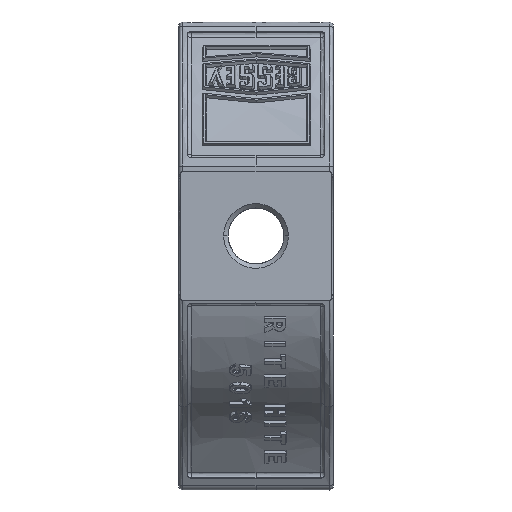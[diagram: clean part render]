
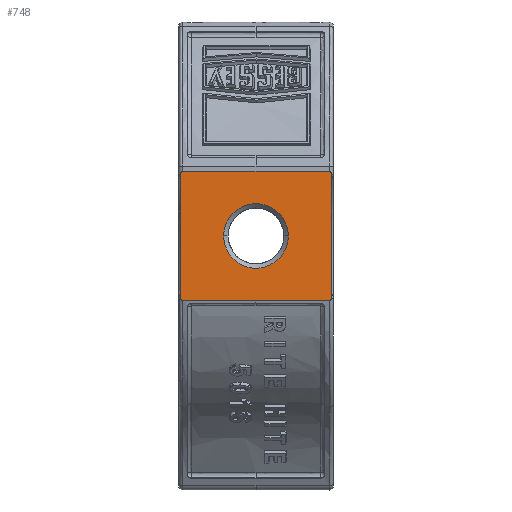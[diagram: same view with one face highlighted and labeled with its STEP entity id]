
A CAD part, front view. The second image highlights one B-rep face of the part: STEP entity #748.
In plain terms, the highlighted free-form (B-spline) face has degree [1, 1] with [2, 2] control points.
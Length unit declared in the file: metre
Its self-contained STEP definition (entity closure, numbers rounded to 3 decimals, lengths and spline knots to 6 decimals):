
#748 = ADVANCED_FACE( '', ( #2136, #2137 ), #2138, .F. );
#2136 = FACE_BOUND( '', #4456, .T. );
#2137 = FACE_OUTER_BOUND( '', #4457, .T. );
#2138 = B_SPLINE_SURFACE_WITH_KNOTS( '', 1, 1, ( ( #4458, #4459 ), ( #4460, #4461 ) ), .UNSPECIFIED., .F., .F., .F., ( 2, 2 ), ( 2, 2 ), ( 0., 1. ), ( 0., 1. ), .UNSPECIFIED. );
#4456 = EDGE_LOOP( '', ( #14803, #14804 ) );
#4457 = EDGE_LOOP( '', ( #14805, #14806, #14807, #14808, #14809, #14810, #14811, #14812 ) );
#4458 = CARTESIAN_POINT( '', ( 0.0175, 0., 0.015 ) );
#4459 = CARTESIAN_POINT( '', ( -0.0175, 0., 0.015 ) );
#4460 = CARTESIAN_POINT( '', ( 0.0175, 0., -0.015 ) );
#4461 = CARTESIAN_POINT( '', ( -0.0175, 0., -0.015 ) );
#14803 = ORIENTED_EDGE( '', *, *, #19193, .F. );
#14804 = ORIENTED_EDGE( '', *, *, #19194, .F. );
#14805 = ORIENTED_EDGE( '', *, *, #19195, .F. );
#14806 = ORIENTED_EDGE( '', *, *, #19196, .F. );
#14807 = ORIENTED_EDGE( '', *, *, #19197, .F. );
#14808 = ORIENTED_EDGE( '', *, *, #19198, .F. );
#14809 = ORIENTED_EDGE( '', *, *, #19199, .F. );
#14810 = ORIENTED_EDGE( '', *, *, #19200, .F. );
#14811 = ORIENTED_EDGE( '', *, *, #19201, .F. );
#14812 = ORIENTED_EDGE( '', *, *, #19202, .F. );
#19193 = EDGE_CURVE( '', #23609, #23610, #23611, .T. );
#19194 = EDGE_CURVE( '', #23610, #23609, #23612, .T. );
#19195 = EDGE_CURVE( '', #23613, #23614, #23615, .F. );
#19196 = EDGE_CURVE( '', #23616, #23613, #23617, .F. );
#19197 = EDGE_CURVE( '', #23618, #23616, #23619, .F. );
#19198 = EDGE_CURVE( '', #23620, #23618, #23621, .F. );
#19199 = EDGE_CURVE( '', #23622, #23620, #23623, .T. );
#19200 = EDGE_CURVE( '', #23624, #23622, #23625, .T. );
#19201 = EDGE_CURVE( '', #23626, #23624, #23627, .T. );
#19202 = EDGE_CURVE( '', #23614, #23626, #23628, .F. );
#23609 = VERTEX_POINT( '', #32088 );
#23610 = VERTEX_POINT( '', #32089 );
#23611 = ( BOUNDED_CURVE(  )B_SPLINE_CURVE( 2, ( #32092, #32093, #32094, #32095, #32096 ), .UNSPECIFIED., .F., .F. )B_SPLINE_CURVE_WITH_KNOTS( ( 3, 2, 3 ), ( 0., 0.5, 1. ), .UNSPECIFIED. )CURVE(  )GEOMETRIC_REPRESENTATION_ITEM(  )RATIONAL_B_SPLINE_CURVE( ( 1., 0.707, 1., 0.707, 1. ) )REPRESENTATION_ITEM( '' ) );
#23612 = ( BOUNDED_CURVE(  )B_SPLINE_CURVE( 2, ( #32104, #32105, #32106, #32107, #32108 ), .UNSPECIFIED., .F., .F. )B_SPLINE_CURVE_WITH_KNOTS( ( 3, 2, 3 ), ( 0., 0.5, 1. ), .UNSPECIFIED. )CURVE(  )GEOMETRIC_REPRESENTATION_ITEM(  )RATIONAL_B_SPLINE_CURVE( ( 1., 0.707, 1., 0.707, 1. ) )REPRESENTATION_ITEM( '' ) );
#23613 = VERTEX_POINT( '', #32114 );
#23614 = VERTEX_POINT( '', #32115 );
#23615 = ( BOUNDED_CURVE(  )B_SPLINE_CURVE( 2, ( #32118, #32119, #32120, #32121 ), .UNSPECIFIED., .F., .F. )B_SPLINE_CURVE_WITH_KNOTS( ( 3, 1, 3 ), ( 0., 0.5, 1. ), .UNSPECIFIED. )CURVE(  )GEOMETRIC_REPRESENTATION_ITEM(  )RATIONAL_B_SPLINE_CURVE( ( 1., 0.854, 0.854, 1. ) )REPRESENTATION_ITEM( '' ) );
#23616 = VERTEX_POINT( '', #32127 );
#23617 = B_SPLINE_CURVE_WITH_KNOTS( '', 1, ( #32128, #32129 ), .UNSPECIFIED., .F., .F., ( 2, 2 ), ( 0.016667, 0.983333 ), .UNSPECIFIED. );
#23618 = VERTEX_POINT( '', #32130 );
#23619 = ( BOUNDED_CURVE(  )B_SPLINE_CURVE( 2, ( #32133, #32134, #32135, #32136 ), .UNSPECIFIED., .F., .F. )B_SPLINE_CURVE_WITH_KNOTS( ( 3, 1, 3 ), ( 0., 0.5, 1. ), .UNSPECIFIED. )CURVE(  )GEOMETRIC_REPRESENTATION_ITEM(  )RATIONAL_B_SPLINE_CURVE( ( 1., 0.854, 0.854, 1. ) )REPRESENTATION_ITEM( '' ) );
#23620 = VERTEX_POINT( '', #32142 );
#23621 = B_SPLINE_CURVE_WITH_KNOTS( '', 1, ( #32143, #32144 ), .UNSPECIFIED., .F., .F., ( 2, 2 ), ( 0.014286, 0.985714 ), .UNSPECIFIED. );
#23622 = VERTEX_POINT( '', #32145 );
#23623 = ( BOUNDED_CURVE(  )B_SPLINE_CURVE( 2, ( #32148, #32149, #32150 ), .UNSPECIFIED., .F., .F. )B_SPLINE_CURVE_WITH_KNOTS( ( 3, 3 ), ( 0., 1. ), .UNSPECIFIED. )CURVE(  )GEOMETRIC_REPRESENTATION_ITEM(  )RATIONAL_B_SPLINE_CURVE( ( 1., 0.707, 1. ) )REPRESENTATION_ITEM( '' ) );
#23624 = VERTEX_POINT( '', #32156 );
#23625 = B_SPLINE_CURVE_WITH_KNOTS( '', 1, ( #32157, #32158 ), .UNSPECIFIED., .F., .F., ( 2, 2 ), ( 0.016667, 0.983333 ), .UNSPECIFIED. );
#23626 = VERTEX_POINT( '', #32159 );
#23627 = ( BOUNDED_CURVE(  )B_SPLINE_CURVE( 2, ( #32162, #32163, #32164 ), .UNSPECIFIED., .F., .F. )B_SPLINE_CURVE_WITH_KNOTS( ( 3, 3 ), ( 0., 1. ), .UNSPECIFIED. )CURVE(  )GEOMETRIC_REPRESENTATION_ITEM(  )RATIONAL_B_SPLINE_CURVE( ( 1., 0.707, 1. ) )REPRESENTATION_ITEM( '' ) );
#23628 = B_SPLINE_CURVE_WITH_KNOTS( '', 1, ( #32170, #32171 ), .UNSPECIFIED., .F., .F., ( 2, 2 ), ( 0.014286, 0.985714 ), .UNSPECIFIED. );
#32088 = CARTESIAN_POINT( '', ( -0.0075, 0., 0. ) );
#32089 = CARTESIAN_POINT( '', ( 0.0075, 0., 0. ) );
#32092 = CARTESIAN_POINT( '', ( -0.0075, 0., 0. ) );
#32093 = CARTESIAN_POINT( '', ( -0.0075, 0., -0.0075 ) );
#32094 = CARTESIAN_POINT( '', ( 0., 0., -0.0075 ) );
#32095 = CARTESIAN_POINT( '', ( 0.0075, 0., -0.0075 ) );
#32096 = CARTESIAN_POINT( '', ( 0.0075, 0., 0. ) );
#32104 = CARTESIAN_POINT( '', ( 0.0075, 0., 0. ) );
#32105 = CARTESIAN_POINT( '', ( 0.0075, 0., 0.0075 ) );
#32106 = CARTESIAN_POINT( '', ( 0., 0., 0.0075 ) );
#32107 = CARTESIAN_POINT( '', ( -0.0075, 0., 0.0075 ) );
#32108 = CARTESIAN_POINT( '', ( -0.0075, 0., 0. ) );
#32114 = CARTESIAN_POINT( '', ( -0.0175, 0., 0.0145 ) );
#32115 = CARTESIAN_POINT( '', ( -0.017, 0., 0.015 ) );
#32118 = CARTESIAN_POINT( '', ( -0.017, 0., 0.015 ) );
#32119 = CARTESIAN_POINT( '', ( -0.017207, 0., 0.015 ) );
#32120 = CARTESIAN_POINT( '', ( -0.0175, 0., 0.014707 ) );
#32121 = CARTESIAN_POINT( '', ( -0.0175, 0., 0.0145 ) );
#32127 = CARTESIAN_POINT( '', ( -0.0175, 0., -0.0145 ) );
#32128 = CARTESIAN_POINT( '', ( -0.0175, 0., 0.0145 ) );
#32129 = CARTESIAN_POINT( '', ( -0.0175, 0., -0.0145 ) );
#32130 = CARTESIAN_POINT( '', ( -0.017, 0., -0.015 ) );
#32133 = CARTESIAN_POINT( '', ( -0.0175, 0., -0.0145 ) );
#32134 = CARTESIAN_POINT( '', ( -0.0175, 0., -0.014707 ) );
#32135 = CARTESIAN_POINT( '', ( -0.017207, 0., -0.015 ) );
#32136 = CARTESIAN_POINT( '', ( -0.017, 0., -0.015 ) );
#32142 = CARTESIAN_POINT( '', ( 0.017, 0., -0.015 ) );
#32143 = CARTESIAN_POINT( '', ( -0.017, 0., -0.015 ) );
#32144 = CARTESIAN_POINT( '', ( 0.017, 0., -0.015 ) );
#32145 = CARTESIAN_POINT( '', ( 0.0175, 0., -0.0145 ) );
#32148 = CARTESIAN_POINT( '', ( 0.0175, 0., -0.0145 ) );
#32149 = CARTESIAN_POINT( '', ( 0.0175, 0., -0.015 ) );
#32150 = CARTESIAN_POINT( '', ( 0.017, 0., -0.015 ) );
#32156 = CARTESIAN_POINT( '', ( 0.0175, 0., 0.0145 ) );
#32157 = CARTESIAN_POINT( '', ( 0.0175, 0., 0.0145 ) );
#32158 = CARTESIAN_POINT( '', ( 0.0175, 0., -0.0145 ) );
#32159 = CARTESIAN_POINT( '', ( 0.017, 0., 0.015 ) );
#32162 = CARTESIAN_POINT( '', ( 0.017, 0., 0.015 ) );
#32163 = CARTESIAN_POINT( '', ( 0.0175, 0., 0.015 ) );
#32164 = CARTESIAN_POINT( '', ( 0.0175, 0., 0.0145 ) );
#32170 = CARTESIAN_POINT( '', ( 0.017, 0., 0.015 ) );
#32171 = CARTESIAN_POINT( '', ( -0.017, 0., 0.015 ) );
